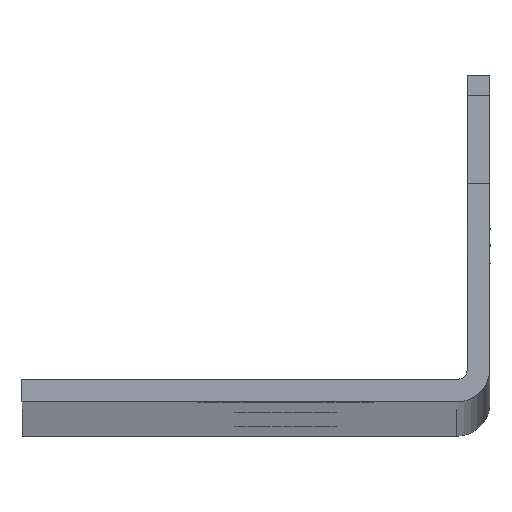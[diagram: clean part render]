
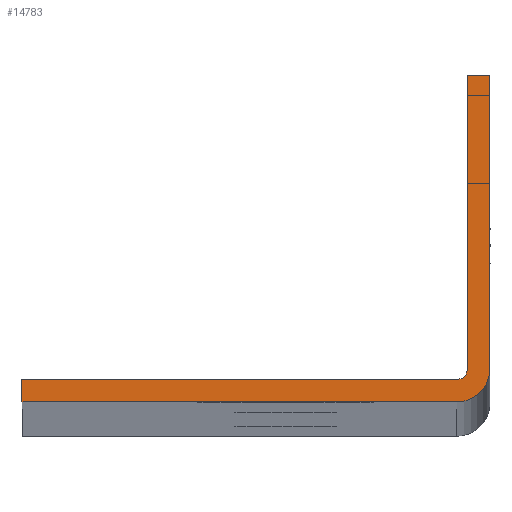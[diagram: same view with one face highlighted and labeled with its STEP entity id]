
A CAD part, top view. The second image highlights one B-rep face of the part: STEP entity #14783.
In plain terms, the highlighted planar face has unit normal (0, 0, 1).
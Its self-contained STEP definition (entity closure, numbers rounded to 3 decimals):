
#753=LINE('',#21236,#2721);
#802=LINE('',#21489,#2770);
#803=LINE('',#21493,#2771);
#804=LINE('',#21495,#2772);
#805=LINE('',#21499,#2773);
#806=LINE('',#21501,#2774);
#2721=VECTOR('',#16921,1000.);
#2770=VECTOR('',#17034,1000.);
#2771=VECTOR('',#17037,1000.);
#2772=VECTOR('',#17038,1000.);
#2773=VECTOR('',#17041,1000.);
#2774=VECTOR('',#17042,1000.);
#4829=ORIENTED_EDGE('',*,*,#9084,.F.);
#4830=ORIENTED_EDGE('',*,*,#9085,.F.);
#4831=ORIENTED_EDGE('',*,*,#8989,.F.);
#4832=ORIENTED_EDGE('',*,*,#9086,.T.);
#4833=ORIENTED_EDGE('',*,*,#9087,.T.);
#4834=ORIENTED_EDGE('',*,*,#9088,.T.);
#4835=ORIENTED_EDGE('',*,*,#9089,.T.);
#4836=ORIENTED_EDGE('',*,*,#9090,.T.);
#8989=EDGE_CURVE('',#11121,#11122,#753,.T.);
#9084=EDGE_CURVE('',#11207,#11208,#802,.T.);
#9085=EDGE_CURVE('',#11122,#11207,#11951,.T.);
#9086=EDGE_CURVE('',#11121,#11209,#803,.T.);
#9087=EDGE_CURVE('',#11209,#11210,#804,.T.);
#9088=EDGE_CURVE('',#11210,#11211,#11952,.F.);
#9089=EDGE_CURVE('',#11211,#11212,#805,.T.);
#9090=EDGE_CURVE('',#11212,#11208,#806,.T.);
#11121=VERTEX_POINT('',#21237);
#11122=VERTEX_POINT('',#21238);
#11207=VERTEX_POINT('',#21490);
#11208=VERTEX_POINT('',#21491);
#11209=VERTEX_POINT('',#21494);
#11210=VERTEX_POINT('',#21496);
#11211=VERTEX_POINT('',#21498);
#11212=VERTEX_POINT('',#21500);
#11951=CIRCLE('',#15560,3.632);
#11952=CIRCLE('',#15561,1.219);
#12158=EDGE_LOOP('',(#4829,#4830,#4831,#4832,#4833,#4834,#4835,#4836));
#13210=FACE_BOUND('',#12158,.T.);
#14095=PLANE('',#15559);
#14783=ADVANCED_FACE('',(#13210),#14095,.T.);
#15559=AXIS2_PLACEMENT_3D('',#21488,#17032,#17033);
#15560=AXIS2_PLACEMENT_3D('',#21492,#17035,#17036);
#15561=AXIS2_PLACEMENT_3D('',#21497,#17039,#17040);
#16921=DIRECTION('',(0.,-1.,0.));
#17032=DIRECTION('',(0.,0.,1.));
#17033=DIRECTION('',(1.,0.,0.));
#17034=DIRECTION('',(-1.,0.,0.));
#17035=DIRECTION('',(0.,0.,-1.));
#17036=DIRECTION('',(0.,1.,0.));
#17037=DIRECTION('',(-1.,0.,0.));
#17038=DIRECTION('',(0.,-1.,0.));
#17039=DIRECTION('',(0.,0.,1.));
#17040=DIRECTION('',(1.,0.,0.));
#17041=DIRECTION('',(-1.,0.,0.));
#17042=DIRECTION('',(0.,-1.,0.));
#21236=CARTESIAN_POINT('',(25.4,2.171,1067.181));
#21237=CARTESIAN_POINT('',(25.4,35.408,1067.181));
#21238=CARTESIAN_POINT('',(25.4,3.632,1067.181));
#21488=CARTESIAN_POINT('',(25.4,2.413,1067.181));
#21489=CARTESIAN_POINT('',(25.4,0.,1067.181));
#21490=CARTESIAN_POINT('',(21.768,0.,1067.181));
#21491=CARTESIAN_POINT('',(-25.4,0.,1067.181));
#21492=CARTESIAN_POINT('',(21.768,3.632,1067.181));
#21493=CARTESIAN_POINT('',(25.4,35.408,1067.181));
#21494=CARTESIAN_POINT('',(22.987,35.408,1067.181));
#21495=CARTESIAN_POINT('',(22.987,2.171,1067.181));
#21496=CARTESIAN_POINT('',(22.987,3.632,1067.181));
#21497=CARTESIAN_POINT('',(21.768,3.632,1067.181));
#21498=CARTESIAN_POINT('',(21.768,2.413,1067.181));
#21499=CARTESIAN_POINT('',(25.4,2.413,1067.181));
#21500=CARTESIAN_POINT('',(-25.4,2.413,1067.181));
#21501=CARTESIAN_POINT('',(-25.4,2.413,1067.181));
